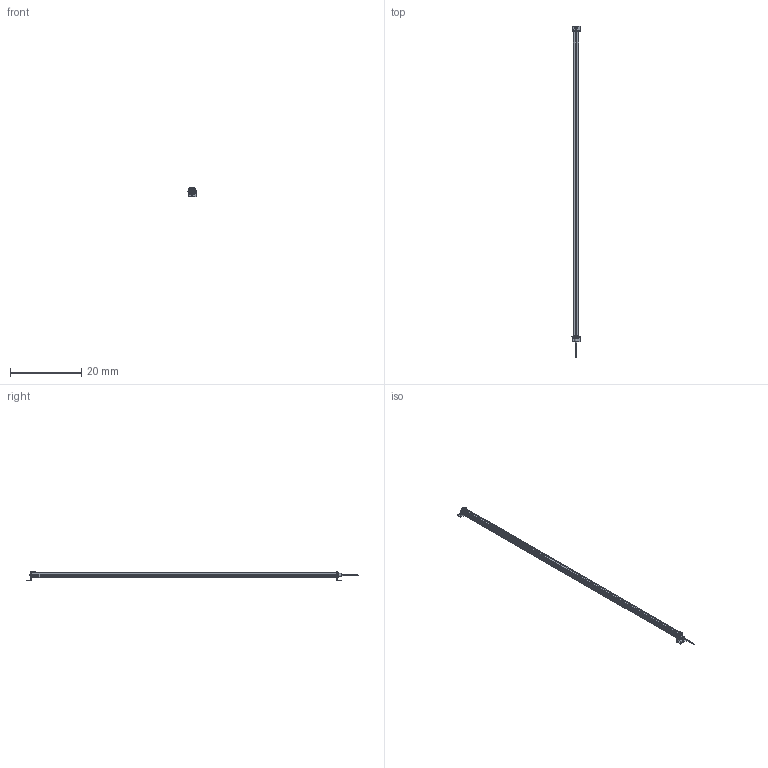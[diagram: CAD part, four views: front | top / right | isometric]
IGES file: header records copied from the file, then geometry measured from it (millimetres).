
Start section:  Autodesk DirectConnect version 7.0.27.0 ---- IGES version 5.3
Global section: file name: C:\ACADFILES\MG_PYLONS\CUSTOMER_FILES\MG-84-PYLON_3D_SMB.iges; native system: Autodesk DirectConnect 7.0.27.0; preprocessor: 7.0.27.0; author: ENGINEERMAIN; organization: Unknown; date: 20150810.143714; units: millimetre
Bounding box: 2.26 x 93.44 x 2.75 mm (x, y, z)
Surface area: 1304 mm2 (no closed solid volume)
Topology: 0 solids, 0 shells, 771 faces, 3970 edges, 3969 vertices
Faces by surface type: bspline 771
